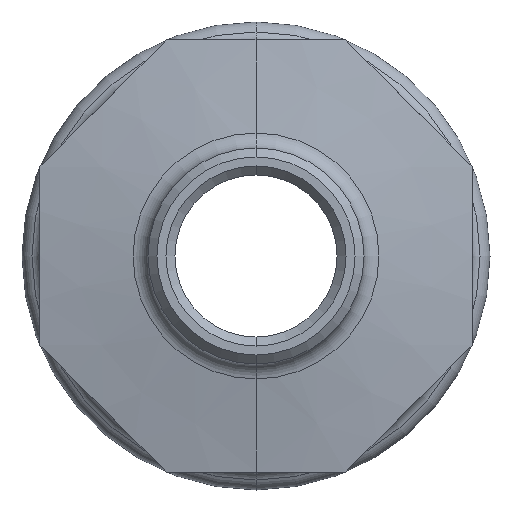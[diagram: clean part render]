
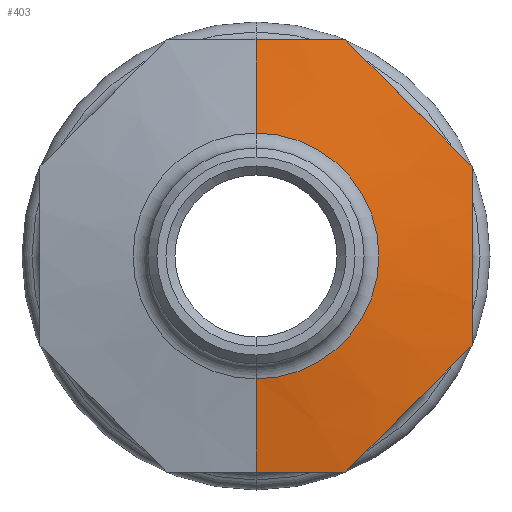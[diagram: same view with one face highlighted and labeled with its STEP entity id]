
A CAD part, front view. The second image highlights one B-rep face of the part: STEP entity #403.
In plain terms, the highlighted conical face has half-angle 80 degrees and reference radius 6.826 mm.
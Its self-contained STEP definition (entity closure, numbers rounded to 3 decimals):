
#11 = CARTESIAN_POINT ( 'NONE',  ( 4.971, 23.232, 12. ) ) ;
#18 = CARTESIAN_POINT ( 'NONE',  ( 4.971, 23.232, -12. ) ) ;
#35 = AXIS2_PLACEMENT_3D ( 'NONE', #372, #496, #384 ) ;
#68 = ORIENTED_EDGE ( 'NONE', *, *, #614, .F. ) ;
#83 = CARTESIAN_POINT ( 'NONE',  ( 3.316, 23.121, -12. ) ) ;
#90 = VECTOR ( 'NONE', #639, 1000. ) ;
#124 = ORIENTED_EDGE ( 'NONE', *, *, #845, .F. ) ;
#130 = ORIENTED_EDGE ( 'NONE', *, *, #172, .F. ) ;
#134 = CARTESIAN_POINT ( 'NONE',  ( 0., 22.146, -6.826 ) ) ;
#172 = EDGE_CURVE ( 'NONE', #790, #852, #274, .T. ) ;
#184 = B_SPLINE_CURVE_WITH_KNOTS ( 'NONE', 3,
 ( #597, #903, #608, #11 ),
 .UNSPECIFIED., .F., .F.,
 ( 4, 4 ),
 ( 0.016, 0.021 ),
 .UNSPECIFIED. ) ;
#193 = CARTESIAN_POINT ( 'NONE',  ( 4.971, 23.232, 12. ) ) ;
#200 = CARTESIAN_POINT ( 'NONE',  ( 12., 23.232, -4.971 ) ) ;
#211 = CARTESIAN_POINT ( 'NONE',  ( 0., 22.146, 6.826 ) ) ;
#217 = VERTEX_POINT ( 'NONE', #743 ) ;
#223 = CARTESIAN_POINT ( 'NONE',  ( 10.828, 23.12, -6.142 ) ) ;
#241 = LINE ( 'NONE', #393, #90 ) ;
#274 = CIRCLE ( 'NONE', #672, 6.826 ) ;
#302 = EDGE_CURVE ( 'NONE', #1118, #397, #184, .T. ) ;
#306 = CARTESIAN_POINT ( 'NONE',  ( 12., 23.232, 4.971 ) ) ;
#310 = CARTESIAN_POINT ( 'NONE',  ( 12., 23.232, 4.971 ) ) ;
#366 = CARTESIAN_POINT ( 'NONE',  ( 0., 23.058, 12. ) ) ;
#368 = VERTEX_POINT ( 'NONE', #200 ) ;
#370 = ORIENTED_EDGE ( 'NONE', *, *, #302, .F. ) ;
#372 = CARTESIAN_POINT ( 'NONE',  ( 0., 22.146, 0. ) ) ;
#384 = DIRECTION ( 'NONE',  ( 0., 0., 1. ) ) ;
#388 = EDGE_CURVE ( 'NONE', #790, #563, #1119, .T. ) ;
#390 = ORIENTED_EDGE ( 'NONE', *, *, #805, .F. ) ;
#393 = CARTESIAN_POINT ( 'NONE',  ( 0., 22.146, 6.826 ) ) ;
#397 = VERTEX_POINT ( 'NONE', #452 ) ;
#403 = ADVANCED_FACE ( 'NONE', ( #756 ), #606, .T. ) ;
#413 = DIRECTION ( 'NONE',  ( 0., 0.174, -0.985 ) ) ;
#420 = CARTESIAN_POINT ( 'NONE',  ( 0., 22.146, -6.826 ) ) ;
#452 = CARTESIAN_POINT ( 'NONE',  ( 4.971, 23.232, 12. ) ) ;
#480 = CARTESIAN_POINT ( 'NONE',  ( 12., 23.12, -3.313 ) ) ;
#496 = DIRECTION ( 'NONE',  ( 0., 1., 0. ) ) ;
#514 = ORIENTED_EDGE ( 'NONE', *, *, #646, .F. ) ;
#547 = CARTESIAN_POINT ( 'NONE',  ( 8.485, 22.995, 8.485 ) ) ;
#551 = CARTESIAN_POINT ( 'NONE',  ( 6.142, 23.12, 10.828 ) ) ;
#553 = CARTESIAN_POINT ( 'NONE',  ( 12., 23.058, -1.652 ) ) ;
#563 = VERTEX_POINT ( 'NONE', #1229 ) ;
#597 = CARTESIAN_POINT ( 'NONE',  ( 0., 23.058, 12. ) ) ;
#606 = CONICAL_SURFACE ( 'NONE', #35, 6.826, 1.396 ) ;
#608 = CARTESIAN_POINT ( 'NONE',  ( 3.316, 23.121, 12. ) ) ;
#614 = EDGE_CURVE ( 'NONE', #368, #618, #746, .T. ) ;
#618 = VERTEX_POINT ( 'NONE', #880 ) ;
#625 = EDGE_LOOP ( 'NONE', ( #130, #1236, #514, #68, #1060, #390, #370, #124 ) ) ;
#639 = DIRECTION ( 'NONE',  ( 0., 0.174, 0.985 ) ) ;
#646 = EDGE_CURVE ( 'NONE', #618, #563, #1041, .T. ) ;
#672 = AXIS2_PLACEMENT_3D ( 'NONE', #825, #1061, #1029 ) ;
#734 = CARTESIAN_POINT ( 'NONE',  ( 12., 23.232, -4.971 ) ) ;
#743 = CARTESIAN_POINT ( 'NONE',  ( 12., 23.232, 4.971 ) ) ;
#746 = B_SPLINE_CURVE_WITH_KNOTS ( 'NONE', 3,
 ( #1206, #223, #1249, #911, #1011 ),
 .UNSPECIFIED., .F., .F.,
 ( 4, 1, 4 ),
 ( 0., 0.005, 0.01 ),
 .UNSPECIFIED. ) ;
#756 = FACE_OUTER_BOUND ( 'NONE', #625, .T. ) ;
#790 = VERTEX_POINT ( 'NONE', #134 ) ;
#805 = EDGE_CURVE ( 'NONE', #397, #217, #918, .T. ) ;
#825 = CARTESIAN_POINT ( 'NONE',  ( 0., 22.146, 0. ) ) ;
#827 = CARTESIAN_POINT ( 'NONE',  ( 12., 23.121, 3.317 ) ) ;
#845 = EDGE_CURVE ( 'NONE', #852, #1118, #241, .T. ) ;
#852 = VERTEX_POINT ( 'NONE', #211 ) ;
#880 = CARTESIAN_POINT ( 'NONE',  ( 4.971, 23.232, -12. ) ) ;
#903 = CARTESIAN_POINT ( 'NONE',  ( 1.659, 23.058, 12. ) ) ;
#911 = CARTESIAN_POINT ( 'NONE',  ( 6.142, 23.12, -10.828 ) ) ;
#914 = EDGE_CURVE ( 'NONE', #217, #368, #1247, .T. ) ;
#918 = B_SPLINE_CURVE_WITH_KNOTS ( 'NONE', 3,
 ( #193, #551, #547, #1133, #310 ),
 .UNSPECIFIED., .F., .F.,
 ( 4, 1, 4 ),
 ( 0., 0.005, 0.01 ),
 .UNSPECIFIED. ) ;
#1011 = CARTESIAN_POINT ( 'NONE',  ( 4.971, 23.232, -12. ) ) ;
#1029 = DIRECTION ( 'NONE',  ( 0., 0., -1. ) ) ;
#1041 = B_SPLINE_CURVE_WITH_KNOTS ( 'NONE', 3,
 ( #18, #83, #1238, #1234 ),
 .UNSPECIFIED., .F., .F.,
 ( 4, 4 ),
 ( 0.004, 0.009 ),
 .UNSPECIFIED. ) ;
#1060 = ORIENTED_EDGE ( 'NONE', *, *, #914, .F. ) ;
#1061 = DIRECTION ( 'NONE',  ( 0., -1., 0. ) ) ;
#1077 = VECTOR ( 'NONE', #413, 1000. ) ;
#1105 = CARTESIAN_POINT ( 'NONE',  ( 12., 23.058, 1.662 ) ) ;
#1118 = VERTEX_POINT ( 'NONE', #366 ) ;
#1119 = LINE ( 'NONE', #420, #1077 ) ;
#1133 = CARTESIAN_POINT ( 'NONE',  ( 10.828, 23.12, 6.142 ) ) ;
#1206 = CARTESIAN_POINT ( 'NONE',  ( 12., 23.232, -4.971 ) ) ;
#1229 = CARTESIAN_POINT ( 'NONE',  ( 0., 23.058, -12. ) ) ;
#1234 = CARTESIAN_POINT ( 'NONE',  ( 0., 23.058, -12. ) ) ;
#1236 = ORIENTED_EDGE ( 'NONE', *, *, #388, .T. ) ;
#1238 = CARTESIAN_POINT ( 'NONE',  ( 1.659, 23.058, -12. ) ) ;
#1247 = B_SPLINE_CURVE_WITH_KNOTS ( 'NONE', 3,
 ( #306, #827, #1105, #553, #480, #734 ),
 .UNSPECIFIED., .F., .F.,
 ( 4, 2, 4 ),
 ( 0.004, 0.009, 0.014 ),
 .UNSPECIFIED. ) ;
#1249 = CARTESIAN_POINT ( 'NONE',  ( 8.485, 22.995, -8.485 ) ) ;
